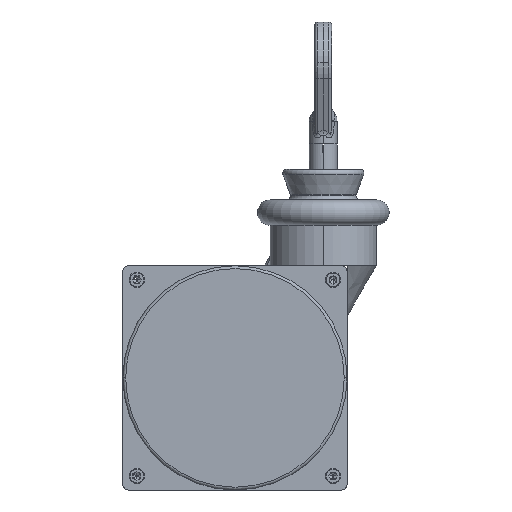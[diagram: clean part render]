
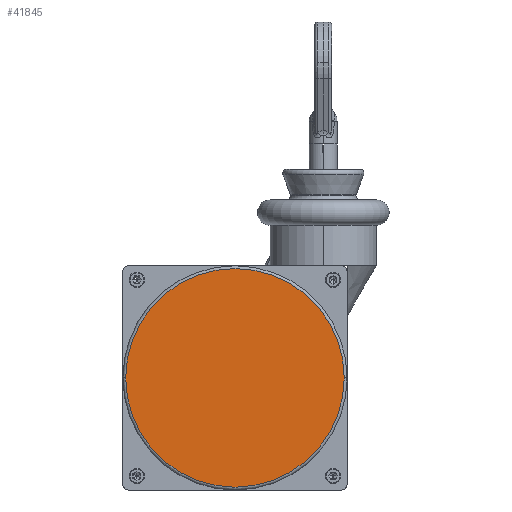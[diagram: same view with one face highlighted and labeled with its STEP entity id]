
A CAD part, front view. The second image highlights one B-rep face of the part: STEP entity #41845.
In plain terms, the highlighted planar face has unit normal (0, -1, 0).
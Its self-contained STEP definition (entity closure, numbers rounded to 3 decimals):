
#3436 = DIRECTION ( 'NONE',  ( 0., -1., 0. ) ) ;
#4783 = DIRECTION ( 'NONE',  ( 1., 0., 0. ) ) ;
#7766 = CARTESIAN_POINT ( 'NONE',  ( 0., -481.5, 0. ) ) ;
#8543 = DIRECTION ( 'NONE',  ( 0., -1., 0. ) ) ;
#10813 = EDGE_CURVE ( 'NONE', #14674, #29357, #18130, .T. ) ;
#11337 = AXIS2_PLACEMENT_3D ( 'NONE', #25139, #32272, #4783 ) ;
#14031 = ORIENTED_EDGE ( 'NONE', *, *, #10813, .T. ) ;
#14674 = VERTEX_POINT ( 'NONE', #22976 ) ;
#15624 = EDGE_CURVE ( 'NONE', #29357, #14674, #34121, .T. ) ;
#18130 = CIRCLE ( 'NONE', #35853, 39. ) ;
#19306 = CARTESIAN_POINT ( 'NONE',  ( 0., -481.5, 0. ) ) ;
#20985 = DIRECTION ( 'NONE',  ( 1., 0., 0. ) ) ;
#22976 = CARTESIAN_POINT ( 'NONE',  ( -39., -481.5, 0. ) ) ;
#25139 = CARTESIAN_POINT ( 'NONE',  ( 0., -481.5, 0. ) ) ;
#27760 = FACE_OUTER_BOUND ( 'NONE', #45944, .T. ) ;
#29357 = VERTEX_POINT ( 'NONE', #36736 ) ;
#31978 = PLANE ( 'NONE',  #36999 ) ;
#32272 = DIRECTION ( 'NONE',  ( 0., -1., 0. ) ) ;
#34121 = CIRCLE ( 'NONE', #11337, 39. ) ;
#35853 = AXIS2_PLACEMENT_3D ( 'NONE', #7766, #8543, #20985 ) ;
#36736 = CARTESIAN_POINT ( 'NONE',  ( 39., -481.5, 0. ) ) ;
#36999 = AXIS2_PLACEMENT_3D ( 'NONE', #19306, #3436, #43860 ) ;
#41845 = ADVANCED_FACE ( 'NONE', ( #27760 ), #31978, .T. ) ;
#43860 = DIRECTION ( 'NONE',  ( 1., 0., 0. ) ) ;
#45944 = EDGE_LOOP ( 'NONE', ( #50827, #14031 ) ) ;
#50827 = ORIENTED_EDGE ( 'NONE', *, *, #15624, .T. ) ;
